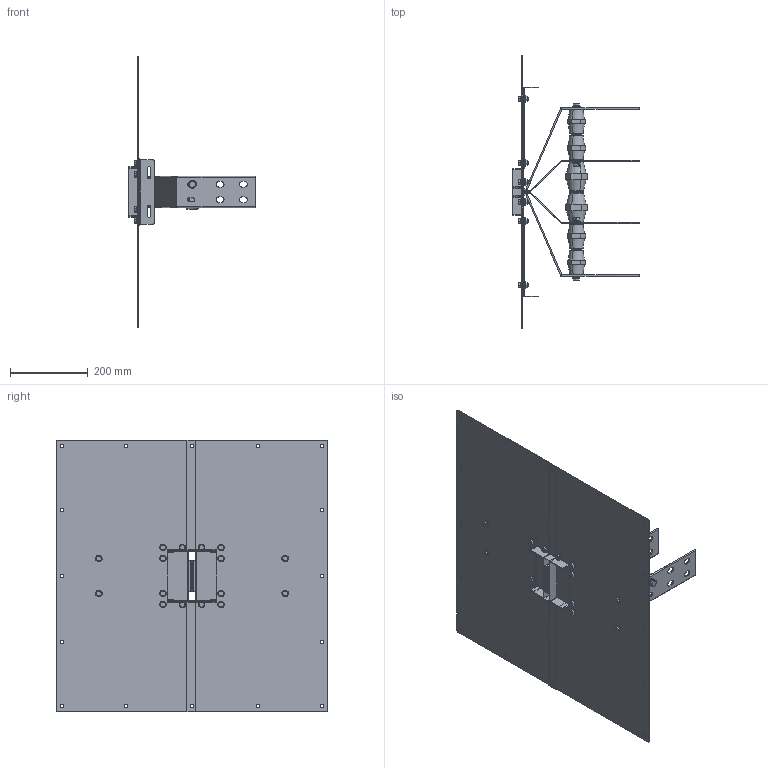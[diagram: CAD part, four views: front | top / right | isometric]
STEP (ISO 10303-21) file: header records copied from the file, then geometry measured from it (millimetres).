
FILE_DESCRIPTION(('CATIA V5 STEP','CAx-IF Rec.Pracs.--- Model Styling and Organization---1.5--- 2016-08-15','CAx-IF Rec.Pracs.---Supplemental Geometry---1.0---2011-11-01','CAx-IF Rec.Pracs.--- Composite Materials ---1.1---2010-07-15'),'2;1');
FILE_NAME('K:\COSCN 2011\32372311_RiduzioneSezioniBarre\03_Studio\__Modelli semplificati\XCP_UB semplificati per studi\XCP-S_UB_4C_Pe_CRT_Assieme\Cu\XCP-S_UB_4C_Pe_S_Assieme - 1000A Cu_CRT\XCP-S_UB_4C_Pe_S_Assieme - 1000A Cu_CRT.stp','2025-05-12T12:56:59+00:00',('Utente Bticino'),('Bticino S.p.A.'),'CATIA Version 5-6 Release 2020 SP5','CATIA V5 STEP AP214 v2','none');
FILE_SCHEMA(('AUTOMOTIVE_DESIGN { 1 0 10303 214 1 1 1 1 }'));
Length unit declared in the file: millimetre
Products named in the file (20): XCP-S_UB_4C_Pe_S_Assieme - 1000A Cu_CRT; XCP-S_UB_4C_Pe_S_PaccoBarre_1000A Cu_CRT; XCP-S_UB_4C_Pe_S_Lamiere_1000A Cu_CRT; Ass_M10x25.1; 00740025 M10x25 UNI5739; Rondella spac M10 UNI 1751; 00750005; 130006; 130184; 130006_1; 130184_1; 130006_2; 130006_3; 00750033 - RONDELLA PIANA 4.8 D.12 UNI 6592 ZB; 00750033 - RONDELLA PIANA 4.8 D.12 UNI 6592 ZB_1; 00750033 - RONDELLA PIANA 4.8 D.12 UNI 6592 ZB_2; Viteria UB H130; Ass Vite+dado M8; Steel hex flanged SCREW M12x16; Steel hex flanged NUT M8
Assembly tree (39 placements, depth 4):
  XCP-S_UB_4C_Pe_S_Assieme - 1000A Cu_CRT
    XCP-S_UB_4C_Pe_S_PaccoBarre_1000A Cu_CRT
    XCP-S_UB_4C_Pe_S_Lamiere_1000A Cu_CRT
    Ass_M10x25.1  x6
      00740025 M10x25 UNI5739
      Rondella spac M10 UNI 1751
      00750005
    130006
    130184
    130006_1
    130184_1
    130006_2
    130006_3
    00750033 - RONDELLA PIANA 4.8 D.12 UNI 6592 ZB
    00750033 - RONDELLA PIANA 4.8 D.12 UNI 6592 ZB_1
    00750033 - RONDELLA PIANA 4.8 D.12 UNI 6592 ZB_2
    Viteria UB H130
      Ass Vite+dado M8  x16
        Steel hex flanged SCREW M12x16
        Steel hex flanged NUT M8
Bounding box: 325 x 700 x 700 mm (x, y, z)
Volume: 2296488 mm3; surface area: 1672857.7 mm2
Topology: 73 solids, 73 shells, 1660 faces, 3980 edges, 2504 vertices
Faces by surface type: plane 728, cylinder 492, cone 200, bspline 176, torus 64
Entity records: 23814 total; most frequent: CARTESIAN_POINT 5202, ORIENTED_EDGE 3952, DIRECTION 3122, EDGE_CURVE 1976, AXIS2_PLACEMENT_3D 1370, VERTEX_POINT 1264, VECTOR 1132, LINE 1132
